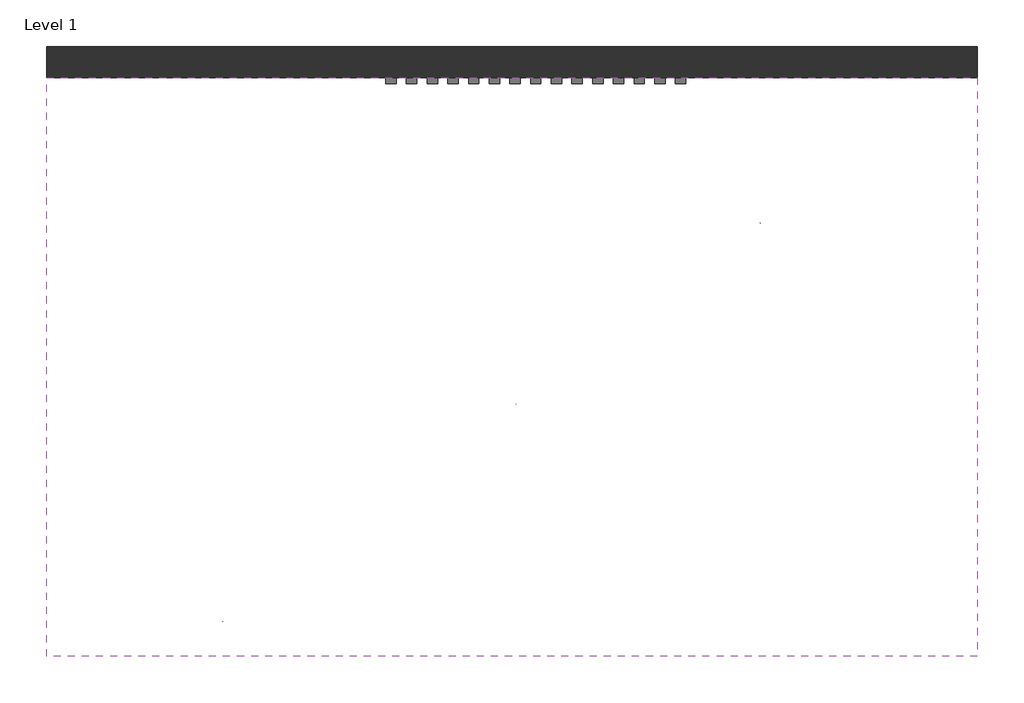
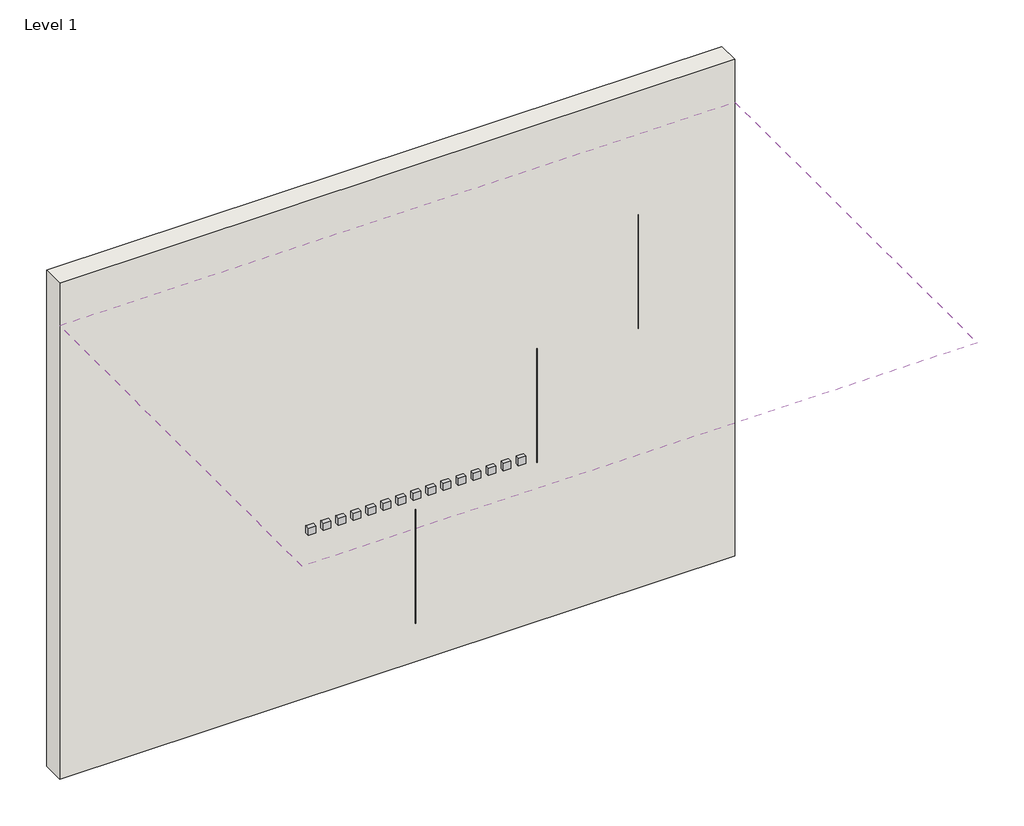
# One storey, incomplete: 3 furniture elements, 1 covering, 1 proxy, 1 wall.
"""IFC4 building model written with IfcOpenShell, lengths in millimetres."""

from ifc_helpers import new_model, si_unit, frame, origin, origin_with_axes, place, context, project, spatial, polyline, outline, extrude, transform, mapped, element, save
from components import generic_models_1_generic_models_1_b2b5510b, furniture_d811e34f

model = new_model("IFC4")

# Units and contexts
model_context = context("Model", 3, world=origin())
ifc_project = project(units=[si_unit("LENGTHUNIT", "METRE", prefix="MILLI")], contexts=[model_context])

# Site, building, storey
site = spatial("IfcSite", under=ifc_project)
building = spatial("IfcBuilding", under=site)
storey = spatial("IfcBuildingStorey", under=building, Name="Level 1", Elevation=0.0)

# Proxy
placement = place(None, origin())
generic_models_1_generic_models_1_shape = generic_models_1_generic_models_1_b2b5510b(model_context)
element("IfcBuildingElementProxy", 1, Name="Generic Models 1 : Generic Models 1", ObjectType="Generic Models 1 : Generic Models 1", at=placement, inside=storey, context=model_context, shape_type="MappedRepresentation", body=[
    mapped(generic_models_1_generic_models_1_shape, transform((370.0, 5000.0, -900.0), x_axis=(1.0, 0.0, 0.0), y_axis=(0.0, 1.0, 0.0), z_axis=(0.0, 0.0, 1.0))),
])

# Covering
element("IfcCovering", 2, ObjectType="610 x 610mm Grid", at=placement, inside=storey, context=model_context, shape_type="SweptSolid", body=[
    extrude(outline(polyline([(4500.0, 4925.0), (4500.0, 2125.0), (0.0, 2125.0), (0.0, 4925.0), (4500.0, 4925.0)])), frame((0.0, 0.0, 3200.0), z_axis=(0.0, 0.0, 1.0), x_axis=(1.0, 0.0, 0.0)), (0.0, 0.0, 1.0), 52.0),
])

# Furniture
furniture_shape = furniture_d811e34f(model_context)
element("IfcFurniture", 3, ObjectType="Cloudberry_Small : Cloudberry Small", at=placement, inside=storey, context=model_context, shape_type="MappedRepresentation", body=[
    mapped(furniture_shape, transform((851.0139021, 2292.4378465, 3200.0), x_axis=(1.0, 0.0, 0.0), y_axis=(0.0, 1.0, 0.0), z_axis=(0.0, 0.0, 1.0))),
])
element("IfcFurniture", 4, ObjectType="Cloudberry_Medium : Cloudberry Medium", at=placement, inside=storey, context=model_context, shape_type="MappedRepresentation", body=[
    mapped(furniture_shape, transform((2267.9976788, 3343.8991689, 3200.0), x_axis=(0.0, 1.0, 0.0), y_axis=(-1.0, 0.0, 0.0), z_axis=(0.0, 0.0, 1.0))),
])
element("IfcFurniture", 5, ObjectType="Cloudberry_Large : Cloudberry Large", at=placement, inside=storey, context=model_context, shape_type="MappedRepresentation", body=[
    mapped(furniture_shape, transform((3449.6205485, 4220.3162205, 3200.0), x_axis=(1.0, 0.0, 0.0), y_axis=(0.0, 1.0, 0.0), z_axis=(0.0, 0.0, 1.0))),
])

# Wall
element("IfcWall", 6, ObjectType="Generic - 150", at=placement, inside=storey, context=model_context, shape_type="SweptSolid", body=[
    extrude(outline(polyline([(4500.0, 4925.0), (0.0, 4925.0), (0.0, 5075.0), (4500.0, 5075.0), (4500.0, 4925.0)])), origin_with_axes(), (0.0, 0.0, 1.0), 3500.0),
])

save(model, "model.ifc")
